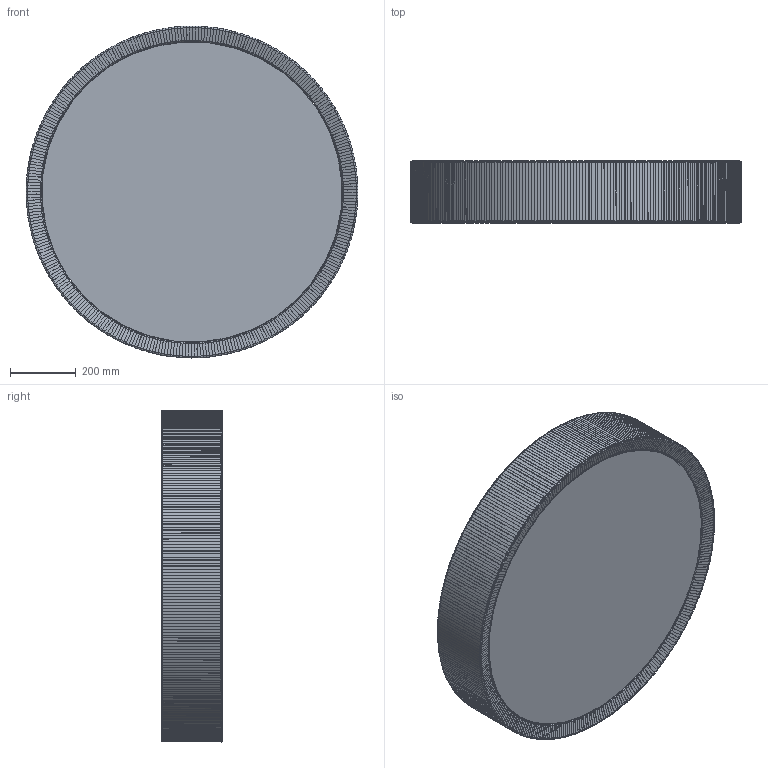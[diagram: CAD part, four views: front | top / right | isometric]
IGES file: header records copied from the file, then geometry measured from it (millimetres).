
Start section: SolidWorks IGES file using analytic representation for surfaces
Global section: file name: E:\3D lampy\Alehandro\Alehandro_5346\Alehandro 1000.IGS; native system: SolidWorks 2016; preprocessor: SolidWorks 2016; author: Asia; date: 170428.153238; units: millimetre
Bounding box: 1007.08 x 187.94 x 1007.15 mm (x, y, z)
Surface area: 4027698.1 mm2 (no closed solid volume)
Topology: 0 solids, 0 shells, 5282 faces, 29918 edges, 29918 vertices
Faces by surface type: bspline 4940, revolution 342
